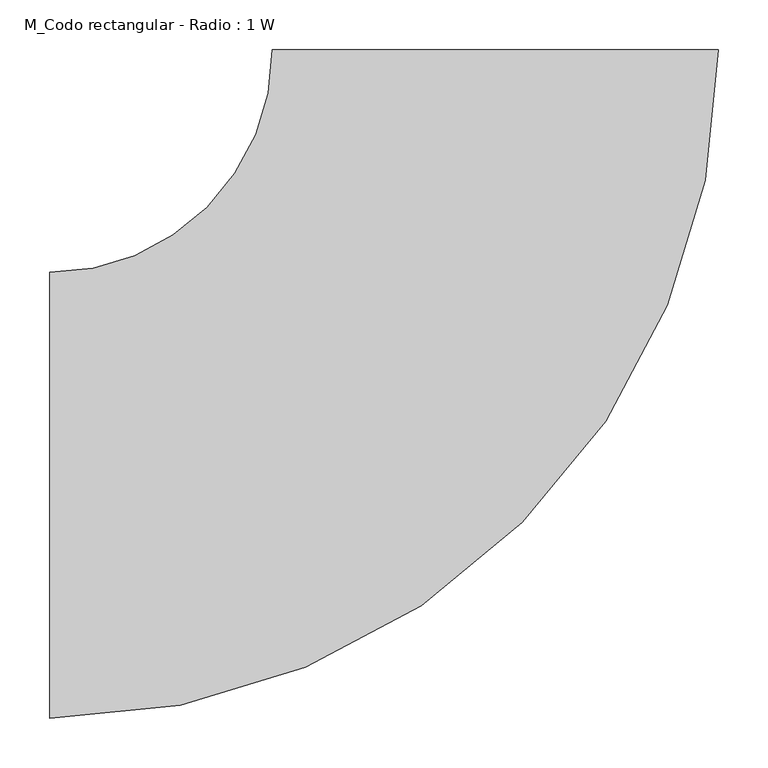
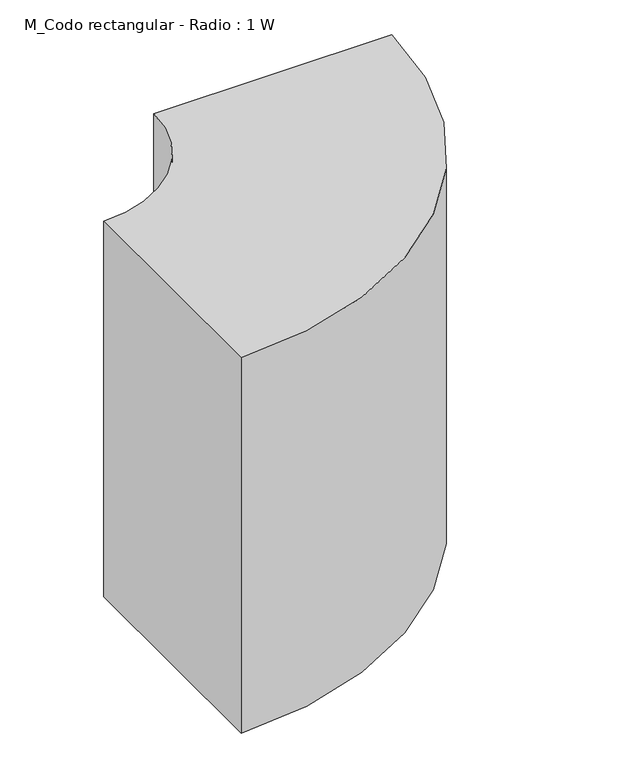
"""IFC4 building model written with IfcOpenShell, lengths in millimetres: duct fitting geometry, M_Codo rectangular - Radio : 1 W."""

from ifc_helpers import new_model, si_unit, point, frame, frame_2d, origin, place, context, project, spatial, polyline, circle_curve, trimmed, segment, composite_curve, outline, extrude, source, transform, mapped, element, save


def m_codo_rectangular_radio_1_w_23128a9d(model_context):
    return source(origin(), model_context, "Body", "SweptSolid", [
        extrude(outline(composite_curve([segment(trimmed(circle_curve(frame_2d((-450.0, 450.0)), 675.0), [point((225.0, 450.0))], [point((-450.0, -225.0))], False, "CARTESIAN"), True, "CONTINUOUS"), segment(polyline([(-450.0, -225.0), (-450.0, 225.0)]), True, "CONTINUOUS"), segment(trimmed(circle_curve(frame_2d((-450.0, 450.0)), 225.0), [point((-450.0, 225.0))], [point((-225.0, 450.0))], True, "CARTESIAN"), True, "CONTINUOUS"), segment(polyline([(-225.0, 450.0), (225.0, 450.0)]), True, "CONTINUOUS")], self_intersect=False)), frame((0.0, 0.0, -375.0), z_axis=(0.0, 0.0, 1.0), x_axis=(1.0, 0.0, 0.0)), (0.0, 0.0, 1.0), 750.0),
    ])


if __name__ == "__main__":
    model = new_model("IFC4")
    model_context = context("Model", 3, world=origin())
    ifc_project = project(units=[si_unit("LENGTHUNIT", "METRE", prefix="MILLI")], contexts=[model_context])
    site = spatial("IfcSite", under=ifc_project)
    building = spatial("IfcBuilding", under=site)
    placement = place(None, origin())
    m_codo_rectangular_radio_1_w_shape = m_codo_rectangular_radio_1_w_23128a9d(model_context)
    element("IfcDuctFitting", 1, ObjectType="M_Codo rectangular - Radio : 1 W", at=placement, inside=building, context=model_context, shape_type="MappedRepresentation", body=[
        mapped(m_codo_rectangular_radio_1_w_shape, transform((0.0, 0.0, 0.0), x_axis=(1.0, 0.0, 0.0), y_axis=(0.0, 1.0, 0.0), z_axis=(0.0, 0.0, 1.0))),
    ])
    save(model, "model.ifc")
